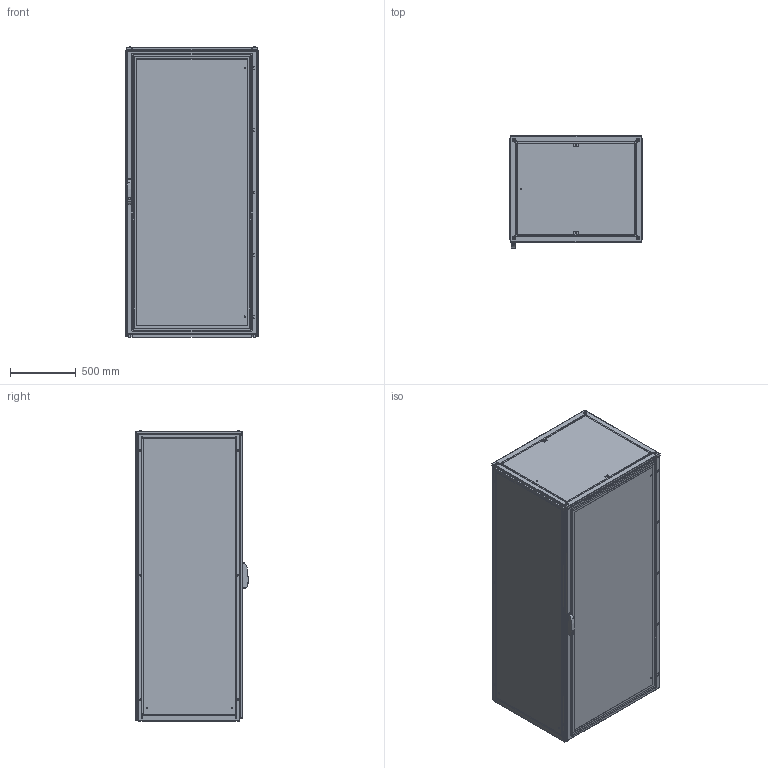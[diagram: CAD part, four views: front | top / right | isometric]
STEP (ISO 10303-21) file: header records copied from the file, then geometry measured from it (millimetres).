
FILE_DESCRIPTION(/* description */ ('STEP AP214'),/* implementation_level */ '2;1');
FILE_NAME(/* name */ 'ENUX102208PR-LOD350',/* time_stamp */ '2025-10-03T14:43:07+02:00',/* author */ ('License CC BY-ND 4.0'),/* organization */ ('CADENAS'),/* preprocessor_version */ 'ST-DEVELOPER v19.3',/* originating_system */ 'PARTsolutions',/* authorisation */ ' ');
FILE_SCHEMA (('AUTOMOTIVE_DESIGN {1 0 10303 214 3 1 1}'));
Length unit declared in the file: millimetre
Products named in the file (11): ENUX102208PR-LOD350; ENUX102208PR-LOD350_CON; ENUX102208PR-LOD350_floor1; ENUX102208PR-LOD350_floor2; Screw M12x30 architecture 350; ENUX102208PR-LOD350_side; ENUX102208PR-LOD350_top; ENUX102208PR-LOD350_back_door_r; ENUX102208PR-LOD350_back_door_l; ENUX102208PR-LOD350_door; ENUX102208PR-LOD350_handle
Assembly tree (26 placements, depth 2):
  ENUX102208PR-LOD350
    ENUX102208PR-LOD350_CON
    ENUX102208PR-LOD350_floor1  x4
    ENUX102208PR-LOD350_floor2  x10
    Screw M12x30 architecture 350  x4
    ENUX102208PR-LOD350_side  x2
    ENUX102208PR-LOD350_top
    ENUX102208PR-LOD350_back_door_r
    ENUX102208PR-LOD350_back_door_l
    ENUX102208PR-LOD350_door
    ENUX102208PR-LOD350_handle
Bounding box: 1012 x 857 x 2214.1 mm (x, y, z)
Volume: 31540331.1 mm3; surface area: 26920392.4 mm2
Topology: 26 solids, 26 shells, 2605 faces, 7253 edges, 4726 vertices
Faces by surface type: plane 1373, cylinder 1017, cone 104, torus 94, sphere 17
Full cylindrical faces by diameter (mm): 4.5 x168, 6 x20, 6.8 x8, 7 x5, 9 x11, 12 x16, 13 x4, 14 x2, 17 x2, 18 x1, 21 x4, 28 x2
Entity records: 59811 total; most frequent: DIRECTION 10383, CARTESIAN_POINT 10325, ORIENTED_EDGE 9652, EDGE_CURVE 4826, AXIS2_PLACEMENT_3D 3735, VERTEX_POINT 3392, LINE 2913, VECTOR 2913
